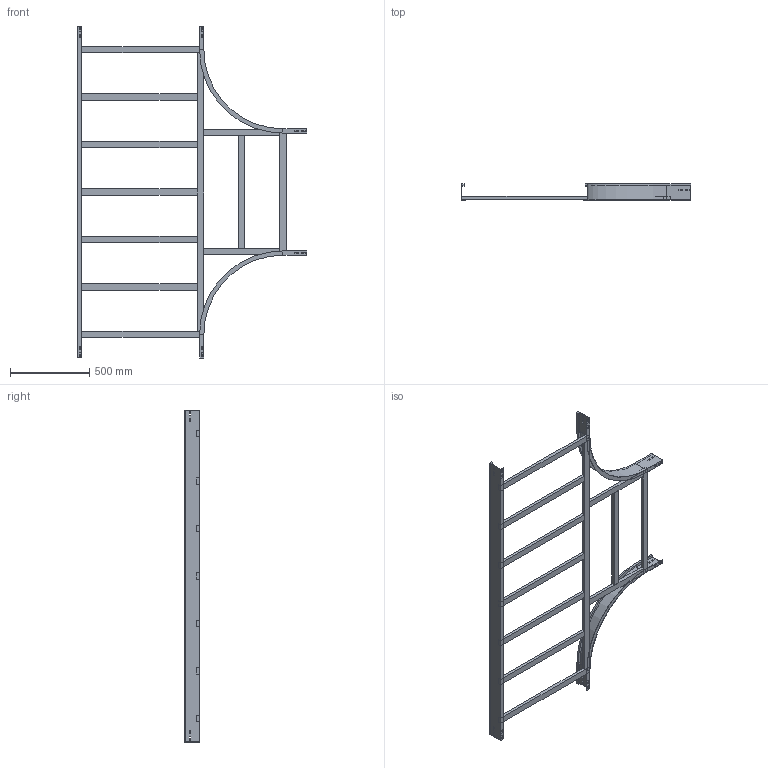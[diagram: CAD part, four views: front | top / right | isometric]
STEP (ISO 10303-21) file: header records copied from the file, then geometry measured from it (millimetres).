
FILE_DESCRIPTION (( 'STEP AP214' ), '1' );
FILE_NAME ('15B5D800.step', '2025-02-21T15:49:17', ( '' ), ( '' ), 'SwSTEP 2.0', 'SolidWorks 2023', '' );
FILE_SCHEMA (( 'AUTOMOTIVE_DESIGN' ));
Length unit declared in the file: millimetre
Products named in the file (8): LONGH.INTERNO 90°_H100_R500; TRAVERSINO_800; TRAVERSINO_COPPIA_800; LONGH.RETT_H100_R500+800; TRAVERSINO_INTERMEDIO_R500+800; 15B5D800; TRAVERSINO_LONG._R500+800; TRAVERSINO_VERT_R500
Assembly tree (15 placements, depth 2):
  15B5D800
    LONGH.INTERNO 90°_H100_R500  x2
    LONGH.RETT_H100_R500+800
    TRAVERSINO_800  x3
    TRAVERSINO_LONG._R500+800
    TRAVERSINO_INTERMEDIO_R500+800  x5
    TRAVERSINO_VERT_R500  x2
    TRAVERSINO_COPPIA_800
Bounding box: 1450 x 100 x 2100 mm (x, y, z)
Volume: 9668072.8 mm3; surface area: 2405639.4 mm2
Topology: 15 solids, 15 shells, 230 faces, 568 edges, 368 vertices
Faces by surface type: plane 222, cylinder 8
Entity records: 4217 total; most frequent: CARTESIAN_POINT 696, ORIENTED_EDGE 664, DIRECTION 636, EDGE_CURVE 332, VECTOR 324, LINE 324, VERTEX_POINT 216, EDGE_LOOP 162
